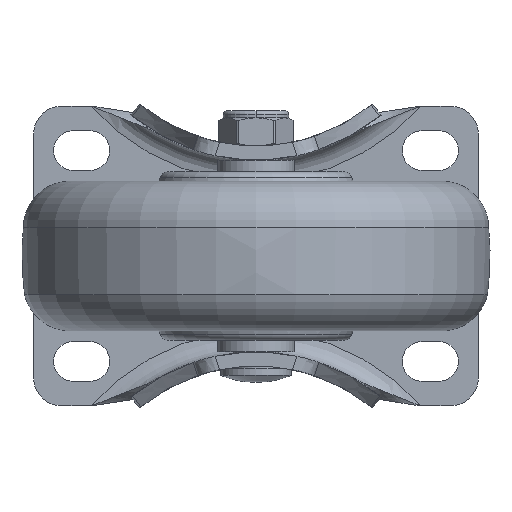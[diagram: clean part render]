
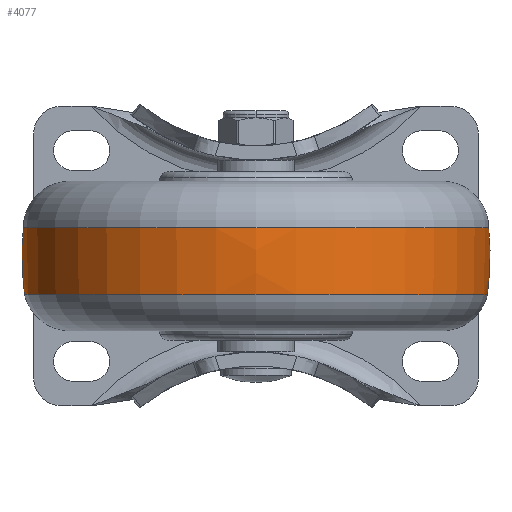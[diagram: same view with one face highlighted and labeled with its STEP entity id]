
A CAD part, front view. The second image highlights one B-rep face of the part: STEP entity #4077.
In plain terms, the highlighted free-form (B-spline) face has degree [3, 3] with [7, 4] control points.
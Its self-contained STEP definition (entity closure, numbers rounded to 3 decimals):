
#3462=CARTESIAN_POINT('',(-6.012,0.,0.));
#3463=DIRECTION('',(-1.,0.,0.));
#3464=DIRECTION('',(0.,1.,0.));
#3465=AXIS2_PLACEMENT_3D('',#3462,#3463,#3464);
#3477=CARTESIAN_POINT('',(0.,-11.437,0.));
#3478=DIRECTION('',(0.,0.,1.));
#3479=DIRECTION('',(0.135,0.991,0.));
#3480=AXIS2_PLACEMENT_3D('',#3477,#3478,#3479);
#3482=CARTESIAN_POINT('',(0.,11.437,0.));
#3483=DIRECTION('',(0.,0.,-1.));
#3484=DIRECTION('',(0.135,-0.991,0.));
#3485=AXIS2_PLACEMENT_3D('',#3482,#3483,#3484);
#3487=CARTESIAN_POINT('',(8.303,0.,0.));
#3488=DIRECTION('',(-1.,0.,0.));
#3489=DIRECTION('',(0.,1.,0.));
#3490=AXIS2_PLACEMENT_3D('',#3487,#3488,#3489);
#3702=CARTESIAN_POINT('',(-6.012,49.697,0.));
#3704=VERTEX_POINT('',#3702);
#3706=CARTESIAN_POINT('',(-6.012,-49.697,
0.));
#3708=VERTEX_POINT('',#3706);
#3735=CARTESIAN_POINT('',(8.303,49.428,0.));
#3737=VERTEX_POINT('',#3735);
#3739=CARTESIAN_POINT('',(8.303,-49.428,
0.));
#3741=VERTEX_POINT('',#3739);
#4041=CARTESIAN_POINT('',(-6.298,-49.57,
3.119));
#4042=CARTESIAN_POINT('',(-1.337,-50.08,
3.151));
#4043=CARTESIAN_POINT('',(3.649,-49.987,3.145));
#4044=CARTESIAN_POINT('',(8.587,-49.291,3.101));
#4045=CARTESIAN_POINT('',(-6.298,-51.489,
-27.387));
#4046=CARTESIAN_POINT('',(-1.337,-52.019,
-27.668));
#4047=CARTESIAN_POINT('',(3.649,-51.922,
-27.617));
#4048=CARTESIAN_POINT('',(8.587,-51.199,
-27.232));
#4049=CARTESIAN_POINT('',(-6.298,-30.566,
-49.668));
#4050=CARTESIAN_POINT('',(-1.337,-30.88,
-50.179));
#4051=CARTESIAN_POINT('',(3.649,-30.823,
-50.085));
#4052=CARTESIAN_POINT('',(8.587,-30.393,
-49.388));
#4053=CARTESIAN_POINT('',(-6.298,0.,-49.668));
#4054=CARTESIAN_POINT('',(-1.337,0.,-50.179));
#4055=CARTESIAN_POINT('',(3.649,0.,
-50.085));
#4056=CARTESIAN_POINT('',(8.587,0.,-49.388));
#4057=CARTESIAN_POINT('',(-6.298,30.566,
-49.668));
#4058=CARTESIAN_POINT('',(-1.337,30.88,
-50.179));
#4059=CARTESIAN_POINT('',(3.649,30.823,-50.085));
#4060=CARTESIAN_POINT('',(8.587,30.393,-49.388));
#4061=CARTESIAN_POINT('',(-6.298,51.489,
-27.387));
#4062=CARTESIAN_POINT('',(-1.337,52.019,
-27.668));
#4063=CARTESIAN_POINT('',(3.649,51.922,-27.617));
#4064=CARTESIAN_POINT('',(8.587,51.199,-27.232));
#4065=CARTESIAN_POINT('',(-6.298,49.57,3.119));
#4066=CARTESIAN_POINT('',(-1.337,50.08,3.151));
#4067=CARTESIAN_POINT('',(3.649,49.987,3.145));
#4068=CARTESIAN_POINT('',(8.587,49.291,3.101));
#4069=(BOUNDED_SURFACE()B_SPLINE_SURFACE(3,3,((#4041,#4042,#4043,#4044),(#4045,
#4046,#4047,#4048),(#4049,#4050,#4051,#4052),(#4053,#4054,#4055,#4056),(#4057,
#4058,#4059,#4060),(#4061,#4062,#4063,#4064),(#4065,#4066,#4067,#4068)),
.UNSPECIFIED.,.F.,.F.,.F.)B_SPLINE_SURFACE_WITH_KNOTS((4,3,4),(4,4),(0.,1.,
2.),(0.,1.),.UNSPECIFIED.)GEOMETRIC_REPRESENTATION_ITEM()RATIONAL_B_SPLINE_SURFACE(((1.192,1.186,1.186,1.192),(
0.941,0.936,0.936,0.941),(
0.941,0.936,0.936,0.941),(
1.192,1.186,1.186,1.192),(
0.941,0.936,0.936,0.941),(
0.941,0.936,0.936,0.941),(
1.192,1.186,1.186,1.192)))REPRESENTATION_ITEM('')SURFACE());
#4070=ORIENTED_EDGE('',*,*,#4031,.T.);
#4071=ORIENTED_EDGE('',*,*,#3984,.T.);
#4072=ORIENTED_EDGE('',*,*,#4035,.F.);
#4074=ORIENTED_EDGE('',*,*,#4073,.F.);
#4075=EDGE_LOOP('',(#4070,#4071,#4072,#4074));
#4076=FACE_OUTER_BOUND('',#4075,.F.);
#3466=CIRCLE('',#3465,49.697);
#3481=CIRCLE('',#3480,61.429);
#3486=CIRCLE('',#3485,61.429);
#3491=CIRCLE('',#3490,49.428);
#3984=EDGE_CURVE('',#3704,#3708,#3466,.T.);
#4031=EDGE_CURVE('',#3737,#3704,#3481,.T.);
#4035=EDGE_CURVE('',#3741,#3708,#3486,.T.);
#4073=EDGE_CURVE('',#3737,#3741,#3491,.T.);
#4077=ADVANCED_FACE('',(#4076),#4069,.T.);
